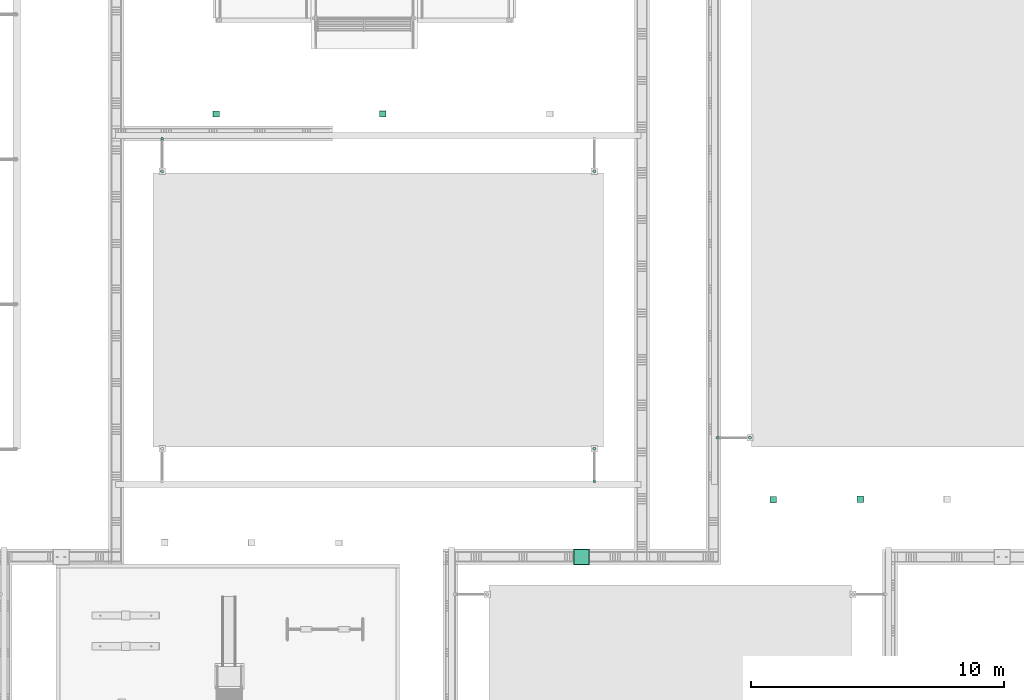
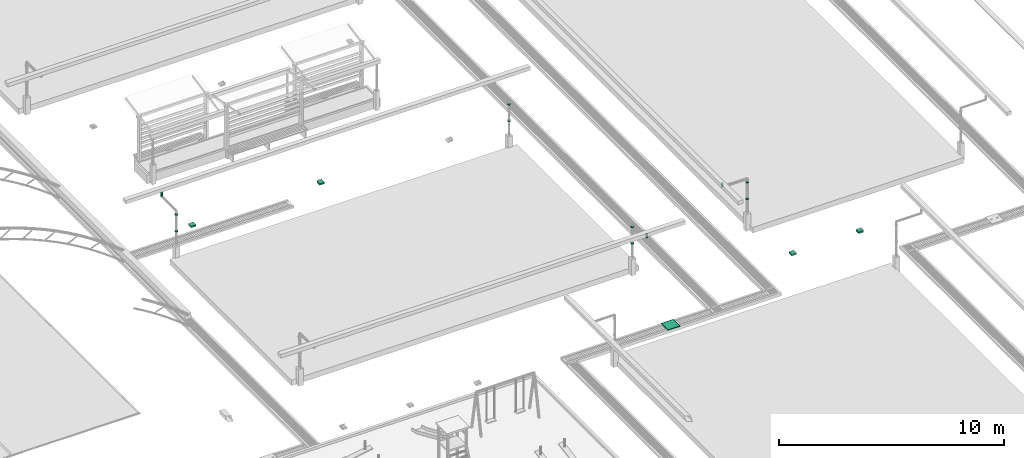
# One storey, part 59 of 90: 11 flow segments, 4 flow terminals, 2 distribution chamber elements.
"""IFC2X3 building model written with IfcOpenShell, lengths in metres."""

from ifc_helpers import new_model, si_unit, origin, origin_with_axes, place, context, subcontext, project, spatial, faceted_brep, element, save


model = new_model("IFC2X3")

# Units and contexts
model_context = context("Model", 3, precision=1e-05, world=origin_with_axes())
body_context = subcontext(model_context, "Body", "Model", "MODEL_VIEW")
ifc_project = project(units=[si_unit("LENGTHUNIT", "METRE"), si_unit("AREAUNIT", "SQUARE_METRE"), si_unit("VOLUMEUNIT", "CUBIC_METRE"), si_unit("PLANEANGLEUNIT", "RADIAN")], contexts=[model_context])

# Site, building, storey
site_placement = place(None, origin_with_axes())
site = spatial("IfcSite", under=ifc_project, at=site_placement, Name="Predio Los Mangos - Morales, San Martín", CompositionType="ELEMENT")
building_placement = place(site_placement, origin())
building = spatial("IfcBuilding", under=site, at=building_placement, Name="Hogar de Refugio Temporal", CompositionType="ELEMENT")
storey_placement = place(building_placement, origin())
storey = spatial("IfcBuildingStorey", under=building, at=storey_placement, Name="NIVEL 1 (NPT +0.00)", CompositionType="ELEMENT", Elevation=0.0)

# Flow segments
flow_segment_1_placement = place(storey_placement, origin())
element("IfcFlowSegment", 1, at=flow_segment_1_placement, inside=storey, Name="montante_boquilla", ObjectType="Montante PVC 4\"", context=body_context, shape_type="Brep", body=[
    faceted_brep([(49.45, 91.375, 3.13), (49.45, 91.375, 2.91), (49.4225, 91.3676, 2.91), (49.4225, 91.3676, 3.13), (49.4024, 91.3475, 2.91), (49.4024, 91.3475, 3.13), (49.395, 91.32, 2.91), (49.395, 91.32, 3.13), (49.4024, 91.2925, 2.91), (49.4024, 91.2925, 3.13), (49.4225, 91.2724, 2.91), (49.4225, 91.2724, 3.13), (49.45, 91.265, 2.91), (49.45, 91.265, 3.13), (49.4775, 91.2724, 2.91), (49.4775, 91.2724, 3.13), (49.4976, 91.2925, 2.91), (49.4976, 91.2925, 3.13), (49.505, 91.32, 2.91), (49.505, 91.32, 3.13), (49.4976, 91.3475, 2.91), (49.4976, 91.3475, 3.13), (49.4775, 91.3676, 2.91), (49.4775, 91.3676, 3.13)], [[[0, 1, 2, 3]], [[3, 2, 4, 5]], [[5, 4, 6, 7]], [[7, 6, 8, 9]], [[9, 8, 10, 11]], [[11, 10, 12, 13]], [[13, 12, 14, 15]], [[15, 14, 16, 17]], [[17, 16, 18, 19]], [[19, 18, 20, 21]], [[2, 1, 22, 20, 18, 16, 14, 12, 10, 8, 6, 4]], [[21, 20, 22, 23]], [[23, 22, 1, 0]], [[0, 3, 5, 7, 9, 11, 13, 15, 17, 19, 21, 23]]]),
])
flow_segment_2_placement = place(storey_placement, origin())
element("IfcFlowSegment", 2, at=flow_segment_2_placement, inside=storey, Name="montante_abrazadera", ObjectType="Montante PVC 4\"", context=body_context, shape_type="Brep", body=[
    faceted_brep([(49.45, 92.548, 1.8), (49.45, 92.548, 1.84), (49.419, 92.5563, 1.84), (49.419, 92.5563, 1.8), (49.3963, 92.579, 1.84), (49.3963, 92.579, 1.8), (49.388, 92.61, 1.84), (49.388, 92.61, 1.8), (49.3963, 92.641, 1.84), (49.3963, 92.641, 1.8), (49.419, 92.6637, 1.84), (49.419, 92.6637, 1.8), (49.45, 92.672, 1.84), (49.45, 92.672, 1.8), (49.481, 92.6637, 1.84), (49.481, 92.6637, 1.8), (49.5037, 92.641, 1.84), (49.5037, 92.641, 1.8), (49.512, 92.61, 1.84), (49.512, 92.61, 1.8), (49.5037, 92.579, 1.84), (49.5037, 92.579, 1.8), (49.481, 92.5563, 1.84), (49.481, 92.5563, 1.8)], [[[0, 1, 2, 3]], [[3, 2, 4, 5]], [[5, 4, 6, 7]], [[7, 6, 8, 9]], [[9, 8, 10, 11]], [[11, 10, 12, 13]], [[13, 12, 14, 15]], [[15, 14, 16, 17]], [[17, 16, 18, 19]], [[19, 18, 20, 21]], [[2, 1, 22, 20, 18, 16, 14, 12, 10, 8, 6, 4]], [[21, 20, 22, 23]], [[23, 22, 1, 0]], [[0, 3, 5, 7, 9, 11, 13, 15, 17, 19, 21, 23]]]),
])
flow_segment_3_placement = place(storey_placement, origin())
element("IfcFlowSegment", 3, at=flow_segment_3_placement, inside=storey, Name="montante_abrazadera", ObjectType="Montante PVC 4\"", context=body_context, shape_type="Brep", body=[
    faceted_brep([(49.45, 92.548, 2.7), (49.45, 92.548, 2.74), (49.419, 92.5563, 2.74), (49.419, 92.5563, 2.7), (49.3963, 92.579, 2.74), (49.3963, 92.579, 2.7), (49.388, 92.61, 2.74), (49.388, 92.61, 2.7), (49.3963, 92.641, 2.74), (49.3963, 92.641, 2.7), (49.419, 92.6637, 2.74), (49.419, 92.6637, 2.7), (49.45, 92.672, 2.74), (49.45, 92.672, 2.7), (49.481, 92.6637, 2.74), (49.481, 92.6637, 2.7), (49.5037, 92.641, 2.74), (49.5037, 92.641, 2.7), (49.512, 92.61, 2.74), (49.512, 92.61, 2.7), (49.5037, 92.579, 2.74), (49.5037, 92.579, 2.7), (49.481, 92.5563, 2.74), (49.481, 92.5563, 2.7)], [[[0, 1, 2, 3]], [[3, 2, 4, 5]], [[5, 4, 6, 7]], [[7, 6, 8, 9]], [[9, 8, 10, 11]], [[11, 10, 12, 13]], [[13, 12, 14, 15]], [[15, 14, 16, 17]], [[17, 16, 18, 19]], [[19, 18, 20, 21]], [[2, 1, 22, 20, 18, 16, 14, 12, 10, 8, 6, 4]], [[21, 20, 22, 23]], [[23, 22, 1, 0]], [[0, 3, 5, 7, 9, 11, 13, 15, 17, 19, 21, 23]]]),
])
flow_segment_4_placement = place(storey_placement, origin())
element("IfcFlowSegment", 4, at=flow_segment_4_placement, inside=storey, Name="montante_boquilla", ObjectType="Montante PVC 4\"", context=body_context, shape_type="Brep", body=[
    faceted_brep([(32.35, 104.935, 3.13), (32.35, 104.935, 2.91), (32.3225, 104.9276, 2.91), (32.3225, 104.9276, 3.13), (32.3024, 104.9075, 2.91), (32.3024, 104.9075, 3.13), (32.295, 104.88, 2.91), (32.295, 104.88, 3.13), (32.3024, 104.8525, 2.91), (32.3024, 104.8525, 3.13), (32.3225, 104.8324, 2.91), (32.3225, 104.8324, 3.13), (32.35, 104.825, 2.91), (32.35, 104.825, 3.13), (32.3775, 104.8324, 2.91), (32.3775, 104.8324, 3.13), (32.3976, 104.8525, 2.91), (32.3976, 104.8525, 3.13), (32.405, 104.88, 2.91), (32.405, 104.88, 3.13), (32.3976, 104.9075, 2.91), (32.3976, 104.9075, 3.13), (32.3775, 104.9276, 2.91), (32.3775, 104.9276, 3.13)], [[[0, 1, 2, 3]], [[3, 2, 4, 5]], [[5, 4, 6, 7]], [[7, 6, 8, 9]], [[9, 8, 10, 11]], [[11, 10, 12, 13]], [[13, 12, 14, 15]], [[15, 14, 16, 17]], [[17, 16, 18, 19]], [[19, 18, 20, 21]], [[2, 1, 22, 20, 18, 16, 14, 12, 10, 8, 6, 4]], [[21, 20, 22, 23]], [[23, 22, 1, 0]], [[0, 3, 5, 7, 9, 11, 13, 15, 17, 19, 21, 23]]]),
])
flow_segment_5_placement = place(storey_placement, origin())
element("IfcFlowSegment", 5, at=flow_segment_5_placement, inside=storey, Name="montante_abrazadera", ObjectType="Montante PVC 4\"", context=body_context, shape_type="Brep", body=[
    faceted_brep([(32.35, 103.528, 1.8), (32.35, 103.528, 1.84), (32.319, 103.5363, 1.84), (32.319, 103.5363, 1.8), (32.2963, 103.559, 1.84), (32.2963, 103.559, 1.8), (32.288, 103.59, 1.84), (32.288, 103.59, 1.8), (32.2963, 103.621, 1.84), (32.2963, 103.621, 1.8), (32.319, 103.6437, 1.84), (32.319, 103.6437, 1.8), (32.35, 103.652, 1.84), (32.35, 103.652, 1.8), (32.381, 103.6437, 1.84), (32.381, 103.6437, 1.8), (32.4037, 103.621, 1.84), (32.4037, 103.621, 1.8), (32.412, 103.59, 1.84), (32.412, 103.59, 1.8), (32.4037, 103.559, 1.84), (32.4037, 103.559, 1.8), (32.381, 103.5363, 1.84), (32.381, 103.5363, 1.8)], [[[0, 1, 2, 3]], [[3, 2, 4, 5]], [[5, 4, 6, 7]], [[7, 6, 8, 9]], [[9, 8, 10, 11]], [[11, 10, 12, 13]], [[13, 12, 14, 15]], [[15, 14, 16, 17]], [[17, 16, 18, 19]], [[19, 18, 20, 21]], [[2, 1, 22, 20, 18, 16, 14, 12, 10, 8, 6, 4]], [[21, 20, 22, 23]], [[23, 22, 1, 0]], [[0, 3, 5, 7, 9, 11, 13, 15, 17, 19, 21, 23]]]),
])
flow_segment_6_placement = place(storey_placement, origin())
element("IfcFlowSegment", 6, at=flow_segment_6_placement, inside=storey, Name="montante_abrazadera", ObjectType="Montante PVC 4\"", context=body_context, shape_type="Brep", body=[
    faceted_brep([(32.35, 103.528, 2.7), (32.35, 103.528, 2.74), (32.319, 103.5363, 2.74), (32.319, 103.5363, 2.7), (32.2963, 103.559, 2.74), (32.2963, 103.559, 2.7), (32.288, 103.59, 2.74), (32.288, 103.59, 2.7), (32.2963, 103.621, 2.74), (32.2963, 103.621, 2.7), (32.319, 103.6437, 2.74), (32.319, 103.6437, 2.7), (32.35, 103.652, 2.74), (32.35, 103.652, 2.7), (32.381, 103.6437, 2.74), (32.381, 103.6437, 2.7), (32.4037, 103.621, 2.74), (32.4037, 103.621, 2.7), (32.412, 103.59, 2.74), (32.412, 103.59, 2.7), (32.4037, 103.559, 2.74), (32.4037, 103.559, 2.7), (32.381, 103.5363, 2.74), (32.381, 103.5363, 2.7)], [[[0, 1, 2, 3]], [[3, 2, 4, 5]], [[5, 4, 6, 7]], [[7, 6, 8, 9]], [[9, 8, 10, 11]], [[11, 10, 12, 13]], [[13, 12, 14, 15]], [[15, 14, 16, 17]], [[17, 16, 18, 19]], [[19, 18, 20, 21]], [[2, 1, 22, 20, 18, 16, 14, 12, 10, 8, 6, 4]], [[21, 20, 22, 23]], [[23, 22, 1, 0]], [[0, 3, 5, 7, 9, 11, 13, 15, 17, 19, 21, 23]]]),
])
flow_segment_7_placement = place(storey_placement, origin())
element("IfcFlowSegment", 7, at=flow_segment_7_placement, inside=storey, Name="montante_abrazadera", ObjectType="Montante PVC 4\"", context=body_context, shape_type="Brep", body=[
    faceted_brep([(49.45, 103.528, 1.8), (49.45, 103.528, 1.84), (49.419, 103.5363, 1.84), (49.419, 103.5363, 1.8), (49.3963, 103.559, 1.84), (49.3963, 103.559, 1.8), (49.388, 103.59, 1.84), (49.388, 103.59, 1.8), (49.3963, 103.621, 1.84), (49.3963, 103.621, 1.8), (49.419, 103.6437, 1.84), (49.419, 103.6437, 1.8), (49.45, 103.652, 1.84), (49.45, 103.652, 1.8), (49.481, 103.6437, 1.84), (49.481, 103.6437, 1.8), (49.5037, 103.621, 1.84), (49.5037, 103.621, 1.8), (49.512, 103.59, 1.84), (49.512, 103.59, 1.8), (49.5037, 103.559, 1.84), (49.5037, 103.559, 1.8), (49.481, 103.5363, 1.84), (49.481, 103.5363, 1.8)], [[[0, 1, 2, 3]], [[3, 2, 4, 5]], [[5, 4, 6, 7]], [[7, 6, 8, 9]], [[9, 8, 10, 11]], [[11, 10, 12, 13]], [[13, 12, 14, 15]], [[15, 14, 16, 17]], [[17, 16, 18, 19]], [[19, 18, 20, 21]], [[2, 1, 22, 20, 18, 16, 14, 12, 10, 8, 6, 4]], [[21, 20, 22, 23]], [[23, 22, 1, 0]], [[0, 3, 5, 7, 9, 11, 13, 15, 17, 19, 21, 23]]]),
])
flow_segment_8_placement = place(storey_placement, origin())
element("IfcFlowSegment", 8, at=flow_segment_8_placement, inside=storey, Name="montante_abrazadera", ObjectType="Montante PVC 4\"", context=body_context, shape_type="Brep", body=[
    faceted_brep([(49.45, 103.528, 2.7), (49.45, 103.528, 2.74), (49.419, 103.5363, 2.74), (49.419, 103.5363, 2.7), (49.3963, 103.559, 2.74), (49.3963, 103.559, 2.7), (49.388, 103.59, 2.74), (49.388, 103.59, 2.7), (49.3963, 103.621, 2.74), (49.3963, 103.621, 2.7), (49.419, 103.6437, 2.74), (49.419, 103.6437, 2.7), (49.45, 103.652, 2.74), (49.45, 103.652, 2.7), (49.481, 103.6437, 2.74), (49.481, 103.6437, 2.7), (49.5037, 103.621, 2.74), (49.5037, 103.621, 2.7), (49.512, 103.59, 2.74), (49.512, 103.59, 2.7), (49.5037, 103.559, 2.74), (49.5037, 103.559, 2.7), (49.481, 103.5363, 2.74), (49.481, 103.5363, 2.7)], [[[0, 1, 2, 3]], [[3, 2, 4, 5]], [[5, 4, 6, 7]], [[7, 6, 8, 9]], [[9, 8, 10, 11]], [[11, 10, 12, 13]], [[13, 12, 14, 15]], [[15, 14, 16, 17]], [[17, 16, 18, 19]], [[19, 18, 20, 21]], [[2, 1, 22, 20, 18, 16, 14, 12, 10, 8, 6, 4]], [[21, 20, 22, 23]], [[23, 22, 1, 0]], [[0, 3, 5, 7, 9, 11, 13, 15, 17, 19, 21, 23]]]),
])
flow_segment_9_placement = place(storey_placement, origin())
element("IfcFlowSegment", 9, at=flow_segment_9_placement, inside=storey, Name="montante_boquilla", ObjectType="Montante PVC 4\"", context=body_context, shape_type="Brep", body=[
    faceted_brep([(54.32, 93.105, 3.13), (54.32, 93.105, 2.91), (54.2925, 93.0976, 2.91), (54.2925, 93.0976, 3.13), (54.2724, 93.0775, 2.91), (54.2724, 93.0775, 3.13), (54.265, 93.05, 2.91), (54.265, 93.05, 3.13), (54.2724, 93.0225, 2.91), (54.2724, 93.0225, 3.13), (54.2925, 93.0024, 2.91), (54.2925, 93.0024, 3.13), (54.32, 92.995, 2.91), (54.32, 92.995, 3.13), (54.3475, 93.0024, 2.91), (54.3475, 93.0024, 3.13), (54.3676, 93.0225, 2.91), (54.3676, 93.0225, 3.13), (54.375, 93.05, 2.91), (54.375, 93.05, 3.13), (54.3676, 93.0775, 2.91), (54.3676, 93.0775, 3.13), (54.3475, 93.0976, 2.91), (54.3475, 93.0976, 3.13)], [[[0, 1, 2, 3]], [[3, 2, 4, 5]], [[5, 4, 6, 7]], [[7, 6, 8, 9]], [[9, 8, 10, 11]], [[11, 10, 12, 13]], [[13, 12, 14, 15]], [[15, 14, 16, 17]], [[17, 16, 18, 19]], [[19, 18, 20, 21]], [[2, 1, 22, 20, 18, 16, 14, 12, 10, 8, 6, 4]], [[21, 20, 22, 23]], [[23, 22, 1, 0]], [[0, 3, 5, 7, 9, 11, 13, 15, 17, 19, 21, 23]]]),
])
flow_segment_10_placement = place(storey_placement, origin())
element("IfcFlowSegment", 10, at=flow_segment_10_placement, inside=storey, Name="montante_abrazadera", ObjectType="Montante PVC 4\"", context=body_context, shape_type="Brep", body=[
    faceted_brep([(55.61, 92.988, 1.8), (55.61, 92.988, 1.84), (55.579, 92.9963, 1.84), (55.579, 92.9963, 1.8), (55.5563, 93.019, 1.84), (55.5563, 93.019, 1.8), (55.548, 93.05, 1.84), (55.548, 93.05, 1.8), (55.5563, 93.081, 1.84), (55.5563, 93.081, 1.8), (55.579, 93.1037, 1.84), (55.579, 93.1037, 1.8), (55.61, 93.112, 1.84), (55.61, 93.112, 1.8), (55.641, 93.1037, 1.84), (55.641, 93.1037, 1.8), (55.6637, 93.081, 1.84), (55.6637, 93.081, 1.8), (55.672, 93.05, 1.84), (55.672, 93.05, 1.8), (55.6637, 93.019, 1.84), (55.6637, 93.019, 1.8), (55.641, 92.9963, 1.84), (55.641, 92.9963, 1.8)], [[[0, 1, 2, 3]], [[3, 2, 4, 5]], [[5, 4, 6, 7]], [[7, 6, 8, 9]], [[9, 8, 10, 11]], [[11, 10, 12, 13]], [[13, 12, 14, 15]], [[15, 14, 16, 17]], [[17, 16, 18, 19]], [[19, 18, 20, 21]], [[2, 1, 22, 20, 18, 16, 14, 12, 10, 8, 6, 4]], [[21, 20, 22, 23]], [[23, 22, 1, 0]], [[0, 3, 5, 7, 9, 11, 13, 15, 17, 19, 21, 23]]]),
])
flow_segment_11_placement = place(storey_placement, origin())
element("IfcFlowSegment", 11, at=flow_segment_11_placement, inside=storey, Name="montante_abrazadera", ObjectType="Montante PVC 4\"", context=body_context, shape_type="Brep", body=[
    faceted_brep([(55.61, 92.988, 2.7), (55.61, 92.988, 2.74), (55.579, 92.9963, 2.74), (55.579, 92.9963, 2.7), (55.5563, 93.019, 2.74), (55.5563, 93.019, 2.7), (55.548, 93.05, 2.74), (55.548, 93.05, 2.7), (55.5563, 93.081, 2.74), (55.5563, 93.081, 2.7), (55.579, 93.1037, 2.74), (55.579, 93.1037, 2.7), (55.61, 93.112, 2.74), (55.61, 93.112, 2.7), (55.641, 93.1037, 2.74), (55.641, 93.1037, 2.7), (55.6637, 93.081, 2.74), (55.6637, 93.081, 2.7), (55.672, 93.05, 2.74), (55.672, 93.05, 2.7), (55.6637, 93.019, 2.74), (55.6637, 93.019, 2.7), (55.641, 92.9963, 2.74), (55.641, 92.9963, 2.7)], [[[0, 1, 2, 3]], [[3, 2, 4, 5]], [[5, 4, 6, 7]], [[7, 6, 8, 9]], [[9, 8, 10, 11]], [[11, 10, 12, 13]], [[13, 12, 14, 15]], [[15, 14, 16, 17]], [[17, 16, 18, 19]], [[19, 18, 20, 21]], [[2, 1, 22, 20, 18, 16, 14, 12, 10, 8, 6, 4]], [[21, 20, 22, 23]], [[23, 22, 1, 0]], [[0, 3, 5, 7, 9, 11, 13, 15, 17, 19, 21, 23]]]),
])

# Flow terminals
flow_terminal_1_placement = place(storey_placement, origin())
element("IfcFlowTerminal", 12, at=flow_terminal_1_placement, inside=storey, Name="sumidero_fondo", ObjectType="Sumidero con rejilla", context=body_context, shape_type="Brep", body=[
    faceted_brep([(34.36, 105.732, -0.02), (34.36, 105.982, -0.02), (34.61, 105.982, -0.02), (34.61, 105.732, -0.02), (34.36, 105.732, 0.064), (34.61, 105.732, 0.064), (34.61, 105.982, 0.064), (34.36, 105.982, 0.064)], [[[0, 1, 2, 3]], [[4, 5, 6, 7]], [[0, 3, 5, 4]], [[3, 2, 6, 5]], [[2, 1, 7, 6]], [[1, 0, 4, 7]]]),
])
flow_terminal_2_placement = place(storey_placement, origin())
element("IfcFlowTerminal", 13, at=flow_terminal_2_placement, inside=storey, Name="sumidero_fondo", ObjectType="Sumidero con rejilla", context=body_context, shape_type="Brep", body=[
    faceted_brep([(40.96, 105.732, -0.02), (40.96, 105.982, -0.02), (41.21, 105.982, -0.02), (41.21, 105.732, -0.02), (40.96, 105.732, 0.064), (41.21, 105.732, 0.064), (41.21, 105.982, 0.064), (40.96, 105.982, 0.064)], [[[0, 1, 2, 3]], [[4, 5, 6, 7]], [[0, 3, 5, 4]], [[3, 2, 6, 5]], [[2, 1, 7, 6]], [[1, 0, 4, 7]]]),
])
flow_terminal_3_placement = place(storey_placement, origin())
element("IfcFlowTerminal", 14, at=flow_terminal_3_placement, inside=storey, Name="sumidero_fondo", ObjectType="Sumidero con rejilla", context=body_context, shape_type="Brep", body=[
    faceted_brep([(56.41, 90.477, -0.02), (56.41, 90.727, -0.02), (56.66, 90.727, -0.02), (56.66, 90.477, -0.02), (56.41, 90.477, 0.064), (56.66, 90.477, 0.064), (56.66, 90.727, 0.064), (56.41, 90.727, 0.064)], [[[0, 1, 2, 3]], [[4, 5, 6, 7]], [[0, 3, 5, 4]], [[3, 2, 6, 5]], [[2, 1, 7, 6]], [[1, 0, 4, 7]]]),
])
flow_terminal_4_placement = place(storey_placement, origin())
element("IfcFlowTerminal", 15, at=flow_terminal_4_placement, inside=storey, Name="sumidero_fondo", ObjectType="Sumidero con rejilla", context=body_context, shape_type="Brep", body=[
    faceted_brep([(59.85, 90.484, -0.02), (59.85, 90.734, -0.02), (60.1, 90.734, -0.02), (60.1, 90.484, -0.02), (59.85, 90.484, 0.064), (60.1, 90.484, 0.064), (60.1, 90.734, 0.064), (59.85, 90.734, 0.064)], [[[0, 1, 2, 3]], [[4, 5, 6, 7]], [[0, 3, 5, 4]], [[3, 2, 6, 5]], [[2, 1, 7, 6]], [[1, 0, 4, 7]]]),
])

# Distribution chamber elements
distribution_chamber_element_1_placement = place(storey_placement, origin())
element("IfcDistributionChamberElement", 16, at=distribution_chamber_element_1_placement, inside=storey, Name="tapa_insp_junta", ObjectType="Tapa de inspección", context=body_context, shape_type="Brep", body=[
    faceted_brep([(48.629, 88.009, 0.148), (48.629, 88.649, 0.148), (49.269, 88.649, 0.148), (49.269, 88.009, 0.148), (48.629, 88.009, 0.162), (49.269, 88.009, 0.162), (49.269, 88.649, 0.162), (48.629, 88.649, 0.162)], [[[0, 1, 2, 3]], [[4, 5, 6, 7]], [[0, 3, 5, 4]], [[3, 2, 6, 5]], [[2, 1, 7, 6]], [[1, 0, 4, 7]]]),
])
distribution_chamber_element_2_placement = place(storey_placement, origin())
element("IfcDistributionChamberElement", 17, at=distribution_chamber_element_2_placement, inside=storey, Name="tapa_inspeccion", ObjectType="Tapa de inspección", context=body_context, shape_type="Brep", body=[
    faceted_brep([(48.649, 88.029, 0.148), (48.649, 88.629, 0.148), (49.249, 88.629, 0.148), (49.249, 88.029, 0.148), (48.649, 88.029, 0.17), (49.249, 88.029, 0.17), (49.249, 88.629, 0.17), (48.649, 88.629, 0.17)], [[[0, 1, 2, 3]], [[4, 5, 6, 7]], [[0, 3, 5, 4]], [[3, 2, 6, 5]], [[2, 1, 7, 6]], [[1, 0, 4, 7]]]),
])

save(model, "model.ifc")
